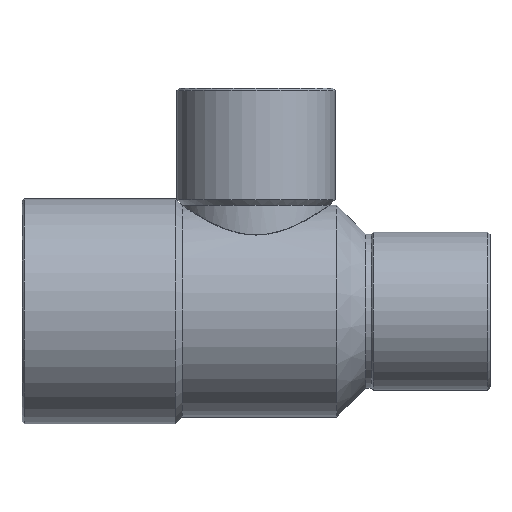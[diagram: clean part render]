
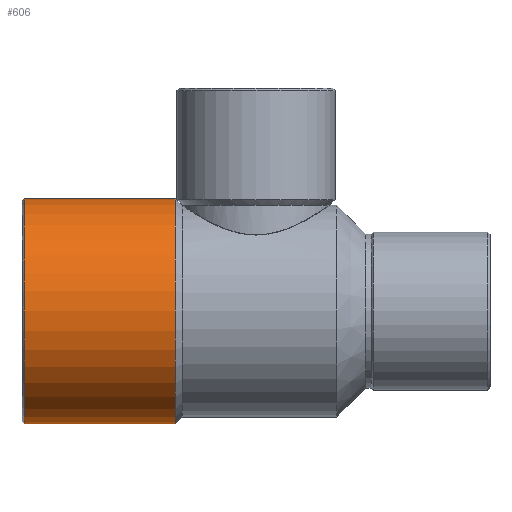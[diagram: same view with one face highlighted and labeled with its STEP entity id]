
A CAD part, top view. The second image highlights one B-rep face of the part: STEP entity #606.
In plain terms, the highlighted cylindrical face has radius 10.1 mm (diameter 20.2 mm), a partial arc.
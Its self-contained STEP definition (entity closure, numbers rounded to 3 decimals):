
#134=CARTESIAN_POINT('',(-7.24,10.1,0.0));
#135=VERTEX_POINT('',#134);
#142=CARTESIAN_POINT('',(-7.24,-10.1,0.));
#143=VERTEX_POINT('',#142);
#144=CARTESIAN_POINT('',(-7.24,0.0,0.0));
#145=DIRECTION('',(1.0,0.0,0.0));
#146=DIRECTION('',(0.0,1.0,0.0));
#147=AXIS2_PLACEMENT_3D('',#144,#145,#146);
#148=CIRCLE('',#147,10.1);
#149=EDGE_CURVE('',#135,#143,#148,.T.);
#575=CARTESIAN_POINT('',(-14.12,0.0,0.0));
#576=DIRECTION('',(1.0,0.0,0.0));
#577=DIRECTION('',(0.0,1.0,0.0));
#578=AXIS2_PLACEMENT_3D('',#575,#576,#577);
#579=CYLINDRICAL_SURFACE('',#578,10.1);
#580=CARTESIAN_POINT('',(-20.8,10.1,0.));
#581=VERTEX_POINT('',#580);
#582=CARTESIAN_POINT('',(-20.8,10.1,0.));
#583=DIRECTION('',(1.0,0.0,0.0));
#584=VECTOR('',#583,13.56);
#585=LINE('',#582,#584);
#586=EDGE_CURVE('',#581,#135,#585,.T.);
#587=ORIENTED_EDGE('',*,*,#586,.F.);
#588=CARTESIAN_POINT('',(-20.8,-10.1,0.));
#589=VERTEX_POINT('',#588);
#590=CARTESIAN_POINT('',(-20.8,0.0,0.0));
#591=DIRECTION('',(-1.0,0.0,0.0));
#592=DIRECTION('',(0.0,-1.0,0.0));
#593=AXIS2_PLACEMENT_3D('',#590,#591,#592);
#594=CIRCLE('',#593,10.1);
#595=EDGE_CURVE('',#589,#581,#594,.T.);
#596=ORIENTED_EDGE('',*,*,#595,.F.);
#597=CARTESIAN_POINT('',(-7.24,-10.1,0.));
#598=DIRECTION('',(-1.0,0.0,0.0));
#599=VECTOR('',#598,13.56);
#600=LINE('',#597,#599);
#601=EDGE_CURVE('',#143,#589,#600,.T.);
#602=ORIENTED_EDGE('',*,*,#601,.F.);
#603=ORIENTED_EDGE('',*,*,#149,.F.);
#604=EDGE_LOOP('',(#587,#596,#602,#603));
#605=FACE_OUTER_BOUND('',#604,.T.);
#606=ADVANCED_FACE('',(#605),#579,.T.);
